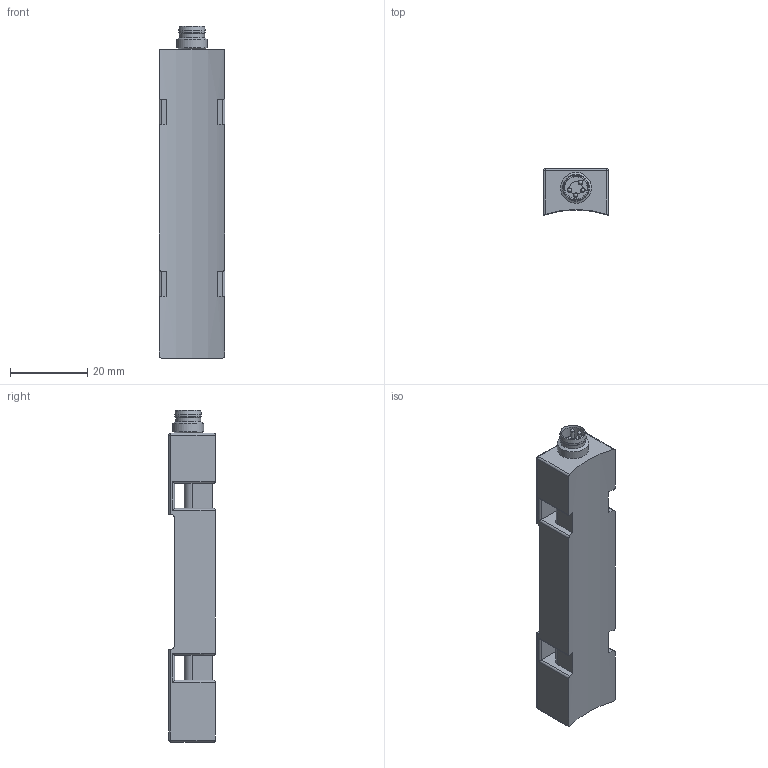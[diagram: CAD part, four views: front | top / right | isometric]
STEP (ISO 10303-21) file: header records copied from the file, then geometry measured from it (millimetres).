
FILE_DESCRIPTION((''),'2;1');
FILE_NAME('C:\TurckZip\Ni-TS12-X2-V1.stp','2008-07-22T16:14:46',('IKOROL'),(''),'Autodesk Inventor 2008','Autodesk Inventor 2008','');
FILE_SCHEMA(('CONFIG_CONTROL_DESIGN'));
Length unit declared in the file: millimetre
Products named in the file (1): Part18
Bounding box: 17 x 12 x 86 mm (x, y, z)
Volume: 13318.8 mm3; surface area: 5803.8 mm2
Topology: 1 solids, 1 shells, 95 faces, 253 edges, 151 vertices
Faces by surface type: cylinder 49, plane 28, cone 9, sphere 8, torus 1
Full cylindrical faces by diameter (mm): 1 x8, 1.15 x4, 5.8 x1, 6.5 x1, 6.899 x1, 8 x1
Entity records: 2924 total; most frequent: CARTESIAN_POINT 566, DIRECTION 490, ORIENTED_EDGE 420, EDGE_CURVE 210, AXIS2_PLACEMENT_3D 198, VERTEX_POINT 146, EDGE_LOOP 128, FACE_OUTER_BOUND 95
